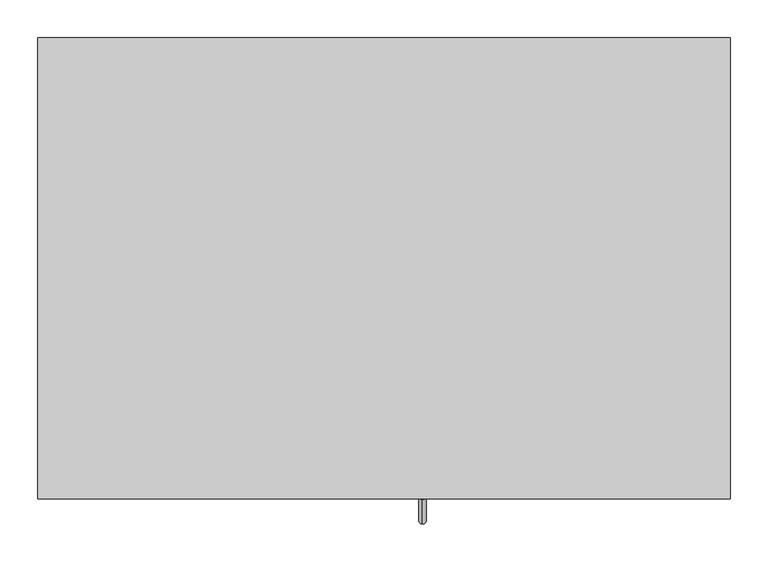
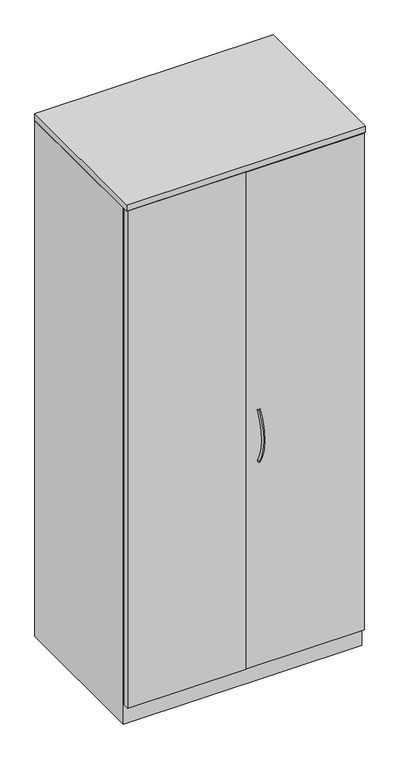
"""IFC4 building model written with IfcOpenShell, lengths in millimetres: furniture geometry, Steelcase - Universal Storage - Cabinet - Wardrobe - 66H-84H - Proud Steel : Side to Side Coat Rod/1 Fixed Shelf - 83 1/2H x 24D x 36W."""

from ifc_helpers import new_model, si_unit, point, frame, origin, place, context, project, spatial, polyline, circle_curve, ellipse_curve, trimmed, outline, extrude, faceted_brep, source, transform, mapped, element, save
from ifc_brep_helpers import plane_surface, revolved_surface, advanced_brep


def furniture_76b435f1(model_context):
    return source(origin(), model_context, "Body", "SolidModel", [
        extrude(outline(polyline([(914.4, 130.048), (914.4, -479.552), (0.0, -479.552), (0.0, 130.048), (914.4, 130.048)])), frame((0.0, 0.0, 2095.4999516), z_axis=(0.0, 0.0, 1.0), x_axis=(1.0, 0.0, 0.0)), (0.0, 0.0, 1.0), 25.4),
        extrude(outline(polyline([(457.2, -479.552), (3.1725353, -479.552), (3.1725353, -457.3261219), (457.2, -457.3261219), (457.2, -479.552)])), frame((0.0, 0.0, 77.724), z_axis=(0.0, 0.0, 1.0), x_axis=(1.0, 0.0, 0.0)), (0.0, 0.0, 1.0), 2016.252),
        extrude(outline(polyline([(911.2225413, -479.552), (458.7239992, -479.552), (458.7239992, -457.3261219), (911.2225413, -457.3261219), (911.2225413, -479.552)])), frame((0.0, 0.0, 77.724), z_axis=(0.0, 0.0, 1.0), x_axis=(1.0, 0.0, 0.0)), (0.0, 0.0, 1.0), 2016.252),
        advanced_brep(
        [(507.9682496, -480.0678374, 1114.4756859), (507.9682496, -471.5857696, 1108.8828219), (507.9682496, -477.4964738, 894.418042), (507.9682496, -469.1474089, 900.2075769)],
        [
            (0, 1, circle_curve(frame((507.9682496, -475.8268035, 1111.6792539), z_axis=(0.0, 0.5504787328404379, 0.8348491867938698), x_axis=(0.0, 0.8348491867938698, -0.5504787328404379)), 5.08)),
            (1, 0, circle_curve(frame((507.9682496, -475.8268035, 1111.6792539), z_axis=(0.0, 0.5504787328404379, 0.8348491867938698), x_axis=(0.0, 0.8348491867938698, -0.5504787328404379)), 5.08)),
            (2, 3, circle_curve(frame((507.9682496, -473.3219413, 897.3128094), z_axis=(0.0, 0.5698361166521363, -0.8217583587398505), x_axis=(0.0, 0.8217583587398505, 0.5698361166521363)), 5.08)),
            (3, 2, circle_curve(frame((507.9682496, -473.3219413, 897.3128094), z_axis=(0.0, 0.5698361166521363, -0.8217583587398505), x_axis=(0.0, 0.8217583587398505, 0.5698361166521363)), 5.08)),
            (3, 1, circle_curve(frame((507.9682496, -316.0827352, 1006.3479992), z_axis=(-1.0, 0.0, 0.0), x_axis=(0.0, -0.83484918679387, 0.5504787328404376)), 186.2648211)),
            (0, 2, circle_curve(frame((507.9682496, -316.0827352, 1006.3479992), z_axis=(1.0, 0.0, 0.0), x_axis=(0.0, -0.83484918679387, 0.5504787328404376)), 196.4248211)),
        ],
        [
            plane_surface(frame((508.7619996, -475.1785718, 1111.2518261), z_axis=(0.0, 0.5504787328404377, 0.83484918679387), x_axis=(1.0, 0.0, 0.0))),
            plane_surface(frame((508.7619996, -472.6838742, 897.7552676), z_axis=(0.0, 0.5698361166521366, -0.8217583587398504), x_axis=(1.0, 0.0, 0.0))),
            revolved_surface(trimmed(ellipse_curve(frame((507.9682496, -475.8268035, 1111.6792539), z_axis=(0.0, 0.5504787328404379, 0.8348491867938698), x_axis=(0.0, 0.8348491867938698, -0.5504787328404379)), 5.08, 5.08), [point((507.9682496, -480.0678374, 1114.4756859))], [point((507.9682496, -471.5857696, 1108.8828219))], True, "CARTESIAN"), (508.7619996, -316.0827352, 1006.3479992), (1.0, 0.0, 0.0)),
            revolved_surface(trimmed(ellipse_curve(frame((507.9682496, -475.8268035, 1111.6792539), z_axis=(0.0, 0.5504787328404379, 0.8348491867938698), x_axis=(0.0, 0.8348491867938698, -0.5504787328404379)), 5.08, 5.08), [point((507.9682496, -471.5857696, 1108.8828219))], [point((507.9682496, -480.0678374, 1114.4756859))], True, "CARTESIAN"), (508.7619996, -316.0827352, 1006.3479992), (1.0, 0.0, 0.0)),
        ],
        [
            (0, [[1, 2]]),
            (1, [[3, 4]]),
            (2, [[5, -1, 6, -4]]),
            (3, [[-6, -2, -5, -3]]),
        ],
    ),
        faceted_brep([(25.4000008, -457.3261219, 76.2), (889.0000242, -457.3261219, 76.2), (889.0000242, 104.6479992, 76.2), (25.4000008, 104.6479992, 76.2), (914.4, 130.048, 0.0), (914.4, -457.3261219, 0.0), (0.0, -457.3261219, 0.0), (0.0, 130.048, 0.0), (0.0, 130.048, 2093.976), (914.4, 130.048, 2093.976), (0.0, -457.3261219, 2093.976), (914.4, -457.3261219, 2093.976), (889.0000242, -457.3261219, 2093.976), (25.4000008, -457.3261219, 2093.976), (889.0000242, 104.6479992, 2093.976), (25.4000008, 104.6479992, 2093.976)], [[[0, 1, 2, 3]], [[4, 5, 6, 7]], [[4, 7, 8, 9]], [[8, 7, 6, 10]], [[10, 6, 5, 11, 12, 1, 0, 13]], [[11, 5, 4, 9]], [[14, 12, 11, 9, 8, 10, 13, 15]], [[12, 14, 2, 1]], [[15, 13, 0, 3]], [[14, 15, 3, 2]]]),
    ])


if __name__ == "__main__":
    model = new_model("IFC4")
    model_context = context("Model", 3, world=origin())
    ifc_project = project(units=[si_unit("LENGTHUNIT", "METRE", prefix="MILLI")], contexts=[model_context])
    site = spatial("IfcSite", under=ifc_project)
    building = spatial("IfcBuilding", under=site)
    placement = place(None, origin())
    furniture_shape = furniture_76b435f1(model_context)
    element("IfcFurniture", 1, ObjectType="Steelcase - Universal Storage - Cabinet - Wardrobe - 66H-84H - Proud Steel : Side to Side Coat Rod/1 Fixed Shelf - 83 1/2H x 24D x 36W", at=placement, inside=building, context=model_context, shape_type="MappedRepresentation", body=[
        mapped(furniture_shape, transform((0.0, 0.0, 0.0), x_axis=(1.0, 0.0, 0.0), y_axis=(0.0, 1.0, 0.0), z_axis=(0.0, 0.0, 1.0))),
    ])
    save(model, "model.ifc")
